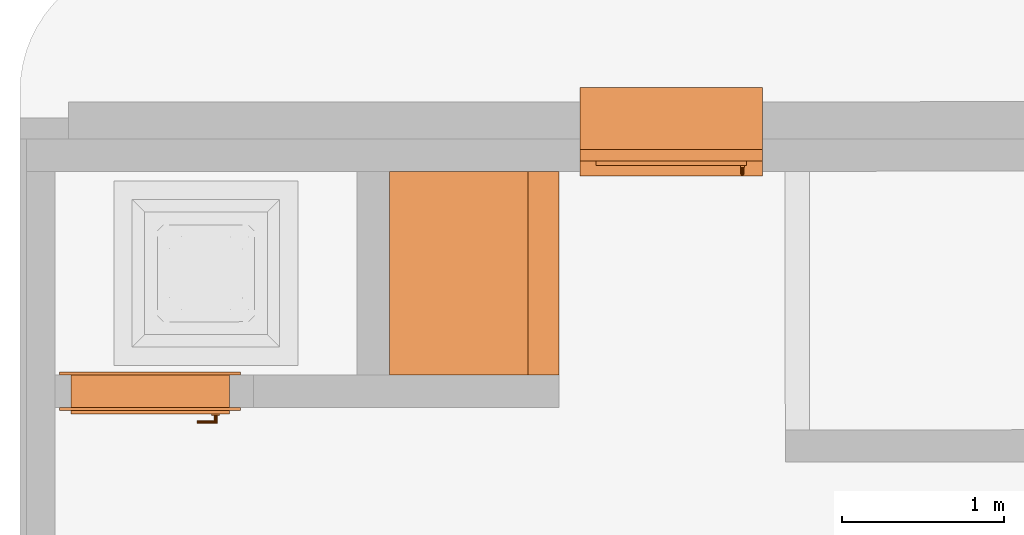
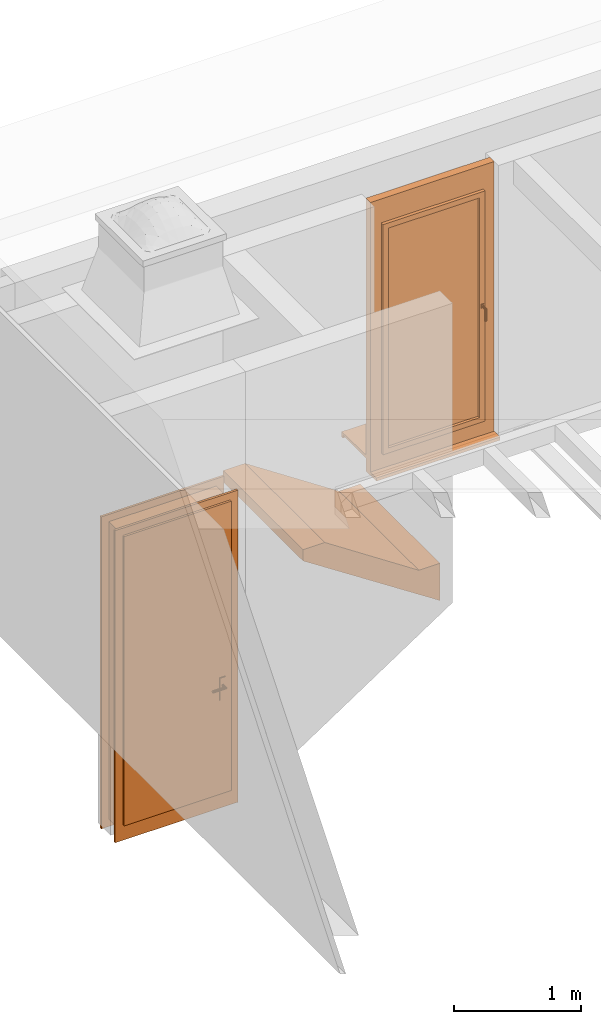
# One storey, part 6 of 7: 3 proxies.
"""IFC2X3 building model written with IfcOpenShell, lengths in metres."""

from ifc_helpers import new_model, entity, si_unit, converted_unit, derived_unit, direction, frame, origin, origin_with_axes, place, context, subcontext, project, spatial, closed_shell, open_shell, faceted_brep, surface_model, source, transform, mapped, element, save


model = new_model("IFC2X3")

# Units and contexts
model_context = context("Model", 3, precision=1e-05, world=origin(), true_north=direction((0.772621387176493, -0.634867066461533)))
body_context = subcontext(model_context, "Body", "Model", "MODEL_VIEW")
ifc_project = project(units=[si_unit("LENGTHUNIT", "METRE"), si_unit("AREAUNIT", "SQUARE_METRE"), si_unit("VOLUMEUNIT", "CUBIC_METRE"), si_unit("MASSUNIT", "GRAM", prefix="KILO"), converted_unit("PLANEANGLEUNIT", "DEGREE", entity("IfcPlaneAngleMeasure", 0.0174532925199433), si_unit("PLANEANGLEUNIT", "RADIAN"), dimensions=[0, 0, 0, 0, 0, 0, 0]), derived_unit("THERMALTRANSMITTANCEUNIT", [(si_unit("POWERUNIT", "WATT"), 1), (si_unit("THERMODYNAMICTEMPERATUREUNIT", "KELVIN"), -1), (si_unit("LENGTHUNIT", "METRE"), -2)]), derived_unit("VOLUMETRICFLOWRATEUNIT", [(si_unit("LENGTHUNIT", "METRE"), 3), (converted_unit("TIMEUNIT", "hour", entity("IfcTimeMeasure", 3600.0), si_unit("TIMEUNIT", "SECOND"), dimensions=[0, 0, 1, 0, 0, 0, 0]), -1), (si_unit("LENGTHUNIT", "METRE"), -1)])], contexts=[model_context])

# Site, building, storey
site_placement = place(None, origin())
site = spatial("IfcSite", under=ifc_project, at=site_placement, Name="Modelle auf dem Nullpunkt", CompositionType="ELEMENT")
building_placement = place(site_placement, origin())
building = spatial("IfcBuilding", under=site, at=building_placement, Name="I", CompositionType="ELEMENT")
storey_placement = place(building_placement, origin())
storey = spatial("IfcBuildingStorey", under=building, at=storey_placement, Name="3.OG", CompositionType="ELEMENT", Elevation=0.0)

# Proxies
shared_shape_1 = source(origin_with_axes(), body_context, "Body", "SurfaceModel", [
    surface_model("IfcShellBasedSurfaceModel", [(0.0, 0.020000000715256, 0.125), (0.0, 0.385000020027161, 0.125), (0.0, 0.385000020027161, 0.155), (0.0, 0.0, 0.145), (0.0, 0.0, 0.095), (0.0, 0.020000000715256, 0.095), (1.13000000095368, 0.385000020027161, 0.125), (1.13000000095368, 0.020000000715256, 0.125), (1.13000000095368, 0.020000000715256, 0.095), (1.13000000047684, 0.0, 0.095), (1.13000000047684, 0.0, 0.145), (1.13000000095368, 0.385000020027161, 0.155)], [closed_shell([[[0, 1, 2, 3, 4, 5]], [[6, 7, 8, 9, 10, 11]], [[1, 0, 7, 6]], [[2, 1, 6, 11]], [[3, 2, 11, 10]], [[4, 3, 10, 9]], [[5, 4, 9, 8]], [[0, 5, 8, 7]]], orient=[[False], [False], [False], [False], [False], [False], [False], [False]])]),
    surface_model("IfcShellBasedSurfaceModel", [(0.0, 0.55000002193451, 0.0), (0.0, 0.55000002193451, 0.03), (0.0, 0.425000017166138, 0.03), (0.0, 0.425000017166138, 0.0), (1.13000000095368, 0.425000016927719, 0.0), (1.13000000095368, 0.425000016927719, 0.03), (1.13000000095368, 0.55000002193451, 0.03), (1.13000000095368, 0.55000002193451, 0.0)], [closed_shell([[[0, 1, 2, 3]], [[4, 5, 6, 7]], [[3, 4, 7, 0]], [[2, 5, 4, 3]], [[1, 6, 5, 2]], [[0, 7, 6, 1]]], orient=[[False], [False], [False], [False], [False], [False]])]),
    surface_model("IfcShellBasedSurfaceModel", [(0.0, 0.455000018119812, 2.63), (0.0, 0.455000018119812, 0.0), (0.12, 0.455000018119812, 0.0), (0.12, 0.455000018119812, 2.63), (0.0, 0.385000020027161, 0.0), (0.0, 0.385000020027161, 2.63), (0.12, 0.385000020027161, 2.63), (0.12, 0.385000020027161, 0.0)], [closed_shell([[[0, 1, 2, 3]], [[4, 5, 6, 7]], [[1, 0, 5, 4]], [[2, 1, 4, 7]], [[3, 2, 7, 6]], [[0, 3, 6, 5]]], orient=[[False], [False], [False], [False], [False], [False]])]),
    surface_model("IfcShellBasedSurfaceModel", [(1.01000000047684, 0.455000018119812, 2.63), (1.01000000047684, 0.455000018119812, 0.0), (1.13000000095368, 0.455000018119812, 0.0), (1.13000000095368, 0.455000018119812, 2.63), (1.01000000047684, 0.385000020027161, 0.0), (1.01000000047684, 0.385000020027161, 2.63), (1.13000000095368, 0.385000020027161, 2.63), (1.13000000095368, 0.385000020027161, 0.0)], [closed_shell([[[0, 1, 2, 3]], [[4, 5, 6, 7]], [[1, 0, 5, 4]], [[2, 1, 4, 7]], [[3, 2, 7, 6]], [[0, 3, 6, 5]]], orient=[[False], [False], [False], [False], [False], [False]])]),
    surface_model("IfcShellBasedSurfaceModel", [(0.12, 0.455000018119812, 0.2), (0.12, 0.455000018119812, 0.0), (1.01000000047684, 0.455000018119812, 0.0), (1.01000000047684, 0.455000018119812, 0.2), (0.12, 0.385000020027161, 0.0), (0.12, 0.385000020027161, 0.2), (1.01000000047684, 0.385000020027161, 0.2), (1.01000000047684, 0.385000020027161, 0.0)], [closed_shell([[[0, 1, 2, 3]], [[4, 5, 6, 7]], [[1, 0, 5, 4]], [[2, 1, 4, 7]], [[3, 2, 7, 6]], [[0, 3, 6, 5]]], orient=[[False], [False], [False], [False], [False], [False]])]),
    surface_model("IfcShellBasedSurfaceModel", [(0.12, 0.455000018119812, 2.63), (0.12, 0.455000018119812, 2.38), (1.01000000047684, 0.455000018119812, 2.38), (1.01000000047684, 0.455000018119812, 2.63), (0.12, 0.385000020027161, 2.38), (0.12, 0.385000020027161, 2.63), (1.01000000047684, 0.385000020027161, 2.63), (1.01000000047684, 0.385000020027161, 2.38)], [closed_shell([[[0, 1, 2, 3]], [[4, 5, 6, 7]], [[1, 0, 5, 4]], [[2, 1, 4, 7]], [[3, 2, 7, 6]], [[0, 3, 6, 5]]], orient=[[False], [False], [False], [False], [False], [False]])]),
    surface_model("IfcShellBasedSurfaceModel", [(0.1, 0.485000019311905, 2.4), (0.1, 0.485000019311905, 0.18), (0.15, 0.485000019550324, 0.18), (0.15, 0.485000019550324, 2.4), (0.1, 0.435000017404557, 0.18), (0.1, 0.435000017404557, 2.4), (0.15, 0.435000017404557, 2.4), (0.15, 0.435000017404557, 0.18)], [closed_shell([[[0, 1, 2, 3]], [[4, 5, 6, 7]], [[1, 0, 5, 4]], [[2, 1, 4, 7]], [[3, 2, 7, 6]], [[0, 3, 6, 5]]], orient=[[False], [False], [False], [False], [False], [False]])]),
    surface_model("IfcShellBasedSurfaceModel", [(0.980000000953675, 0.485000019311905, 2.4), (0.980000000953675, 0.485000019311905, 0.18), (1.03000000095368, 0.485000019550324, 0.18), (1.03000000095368, 0.485000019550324, 2.4), (0.980000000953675, 0.435000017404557, 0.18), (0.980000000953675, 0.435000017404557, 2.4), (1.03000000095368, 0.435000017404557, 2.4), (1.03000000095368, 0.435000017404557, 0.18)], [closed_shell([[[0, 1, 2, 3]], [[4, 5, 6, 7]], [[1, 0, 5, 4]], [[2, 1, 4, 7]], [[3, 2, 7, 6]], [[0, 3, 6, 5]]], orient=[[False], [False], [False], [False], [False], [False]])]),
    surface_model("IfcShellBasedSurfaceModel", [(0.15, 0.485000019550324, 0.23), (0.15, 0.485000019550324, 0.18), (0.980000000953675, 0.485000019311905, 0.18), (0.980000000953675, 0.485000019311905, 0.23), (0.15, 0.435000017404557, 0.18), (0.15, 0.435000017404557, 0.23), (0.980000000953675, 0.435000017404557, 0.23), (0.980000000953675, 0.435000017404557, 0.18)], [closed_shell([[[0, 1, 2, 3]], [[4, 5, 6, 7]], [[1, 0, 5, 4]], [[2, 1, 4, 7]], [[3, 2, 7, 6]], [[0, 3, 6, 5]]], orient=[[False], [False], [False], [False], [False], [False]])]),
    surface_model("IfcShellBasedSurfaceModel", [(0.15, 0.485000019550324, 2.4), (0.15, 0.485000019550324, 2.35), (0.980000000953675, 0.485000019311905, 2.35), (0.980000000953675, 0.485000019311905, 2.4), (0.15, 0.435000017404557, 2.35), (0.15, 0.435000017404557, 2.4), (0.980000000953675, 0.435000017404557, 2.4), (0.980000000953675, 0.435000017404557, 2.35)], [closed_shell([[[0, 1, 2, 3]], [[4, 5, 6, 7]], [[1, 0, 5, 4]], [[2, 1, 4, 7]], [[3, 2, 7, 6]], [[0, 3, 6, 5]]], orient=[[False], [False], [False], [False], [False], [False]])]),
    surface_model("IfcShellBasedSurfaceModel", [(0.1125, 0.485000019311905, 1.32), (0.1375, 0.485000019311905, 1.32), (0.1375, 0.485000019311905, 1.28), (0.1125, 0.485000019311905, 1.28), (0.1125, 0.495000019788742, 1.28), (0.1375, 0.495000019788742, 1.28), (0.1375, 0.495000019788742, 1.32), (0.1125, 0.495000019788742, 1.32)], [closed_shell([[[0, 1, 2, 3]], [[4, 5, 6, 7]], [[3, 4, 7, 0]], [[2, 5, 4, 3]], [[1, 6, 5, 2]], [[0, 7, 6, 1]]], orient=[[False], [False], [False], [False], [False], [False]])]),
    surface_model("IfcShellBasedSurfaceModel", [(0.134999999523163, 0.495000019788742, 1.3), (0.133660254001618, 0.495000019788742, 1.295), (0.13, 0.495000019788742, 1.29133974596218), (0.125, 0.495000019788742, 1.29), (0.12, 0.495000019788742, 1.29133974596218), (0.116339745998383, 0.495000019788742, 1.295), (0.115, 0.495000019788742, 1.3), (0.116339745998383, 0.495000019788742, 1.305), (0.12, 0.495000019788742, 1.30866025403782), (0.125, 0.495000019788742, 1.31), (0.13, 0.495000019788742, 1.30866025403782), (0.133660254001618, 0.495000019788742, 1.305), (0.133660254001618, 0.540000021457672, 1.305), (0.135, 0.535000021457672, 1.3), (0.13, 0.543660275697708, 1.30866025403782), (0.125, 0.545000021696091, 1.31), (0.119999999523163, 0.543660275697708, 1.30866025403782), (0.116339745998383, 0.540000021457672, 1.305), (0.115, 0.535000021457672, 1.3), (0.116339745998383, 0.530000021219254, 1.295), (0.12, 0.526339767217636, 1.29133974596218), (0.125, 0.525000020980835, 1.29), (0.13, 0.526339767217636, 1.29133974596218), (0.133660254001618, 0.530000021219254, 1.295), (0.135, 0.535000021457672, 1.185), (0.133660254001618, 0.540000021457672, 1.185), (0.13, 0.543660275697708, 1.185), (0.125, 0.545000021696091, 1.185), (0.119999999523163, 0.543660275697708, 1.185), (0.116339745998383, 0.540000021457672, 1.185), (0.115, 0.535000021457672, 1.185), (0.116339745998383, 0.530000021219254, 1.185), (0.12, 0.526339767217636, 1.185), (0.125, 0.525000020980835, 1.185), (0.13, 0.526339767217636, 1.185), (0.133660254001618, 0.530000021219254, 1.185)], [closed_shell([[[0, 1, 2, 3, 4, 5, 6, 7, 8, 9, 10, 11]], [[0, 11, 12, 13]], [[11, 10, 14, 12]], [[10, 9, 15, 14]], [[9, 8, 16, 15]], [[8, 7, 17, 16]], [[7, 6, 18, 17]], [[6, 5, 19, 18]], [[5, 4, 20, 19]], [[4, 3, 21, 20]], [[3, 2, 22, 21]], [[2, 1, 23, 22]], [[1, 0, 13, 23]], [[24, 25, 26, 27, 28, 29, 30, 31, 32, 33, 34, 35]], [[13, 12, 25, 24]], [[12, 14, 26, 25]], [[14, 15, 27, 26]], [[15, 16, 28, 27]], [[16, 17, 29, 28]], [[17, 18, 30, 29]], [[18, 19, 31, 30]], [[19, 20, 32, 31]], [[20, 21, 33, 32]], [[21, 22, 34, 33]], [[22, 23, 35, 34]], [[23, 13, 24, 35]]], orient=[[False], [False], [False], [False], [False], [False], [False], [False], [False], [False], [False], [False], [False], [False], [False], [False], [False], [False], [False], [False], [False], [False], [False], [False], [False], [False]])]),
    surface_model("IfcShellBasedSurfaceModel", [(0.15, 0.460000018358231, 0.23), (0.980000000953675, 0.460000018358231, 0.23), (0.980000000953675, 0.460000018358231, 2.35), (0.15, 0.460000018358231, 2.35)], [open_shell([[[0, 1, 2, 3]]], orient=[[False]])]),
])
proxy_1_placement = place(storey_placement, frame((33.9218343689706, 2.45822419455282, 444.6), z_axis=(0.0, 0.0, 1.0), x_axis=(-0.999999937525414, -0.00035348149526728, 0.0)))
element("IfcBuildingElementProxy", 1, at=proxy_1_placement, inside=storey, Name="2flg Weiß Stulp", context=body_context, shape_type="MappedRepresentation", body=[
    mapped(shared_shape_1, transform((0.0, 0.0, 0.0), x_axis=(1.0, 0.0, 0.0), y_axis=(0.0, 1.0, 0.0), z_axis=(0.0, 0.0, 1.0), scale=1.0)),
])
shared_shape_2 = source(origin_with_axes(), body_context, "Body", "Brep", [
    faceted_brep([(0.0700000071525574, 0.240000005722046, 2.94), (0.0700000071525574, 0.240000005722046, 0.07), (0.0900000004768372, 0.240000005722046, 0.07), (0.0900000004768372, 0.240000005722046, 2.94), (0.0700000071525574, 0.0, 0.07), (0.0700000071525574, 0.0, 2.94), (0.0900000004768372, 0.0, 2.94), (0.0900000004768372, 0.0, 0.07)], [[[0, 1, 2, 3]], [[4, 5, 6, 7]], [[1, 0, 5, 4]], [[2, 1, 4, 7]], [[3, 2, 7, 6]], [[0, 3, 6, 5]]], orient=[[False], [False], [False], [False], [False], [False]]),
    faceted_brep([(0.0700000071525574, 0.240000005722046, 3.01), (0.0, 0.240000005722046, 3.01), (0.0, 0.240000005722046, 0.0), (0.0700000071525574, 0.240000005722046, 0.0), (0.0700000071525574, 0.220000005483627, 0.0), (0.0, 0.220000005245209, 0.0), (0.0, 0.220000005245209, 3.01), (0.0700000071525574, 0.220000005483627, 3.01)], [[[0, 1, 2, 3]], [[4, 5, 6, 7]], [[3, 4, 7, 0]], [[2, 5, 4, 3]], [[1, 6, 5, 2]], [[0, 7, 6, 1]]], orient=[[False], [False], [False], [False], [False], [False]]),
    faceted_brep([(0.0700000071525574, 0.0200000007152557, 3.01), (0.0, 0.0200000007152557, 3.01), (0.0, 0.0200000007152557, 0.0), (0.0700000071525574, 0.0200000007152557, 0.0), (0.0700000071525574, 0.0, 0.0), (0.0, 0.0, 0.0), (0.0, 0.0, 3.01), (0.0700000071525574, 0.0, 3.01)], [[[0, 1, 2, 3]], [[4, 5, 6, 7]], [[3, 4, 7, 0]], [[2, 5, 4, 3]], [[1, 6, 5, 2]], [[0, 7, 6, 1]]], orient=[[False], [False], [False], [False], [False], [False]]),
    faceted_brep([(1.03000000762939, 0.240000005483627, 2.94), (1.03000000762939, 0.240000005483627, 0.07), (1.05000000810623, 0.240000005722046, 0.07), (1.05000000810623, 0.240000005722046, 2.94), (1.03000000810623, 0.0, 0.07), (1.03000000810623, 0.0, 2.94), (1.05000000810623, 0.0, 2.94), (1.05000000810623, 0.0, 0.07)], [[[0, 1, 2, 3]], [[4, 5, 6, 7]], [[1, 0, 5, 4]], [[2, 1, 4, 7]], [[3, 2, 7, 6]], [[0, 3, 6, 5]]], orient=[[False], [False], [False], [False], [False], [False]]),
    faceted_brep([(1.05000000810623, 0.240000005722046, 3.01), (1.05000000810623, 0.240000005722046, 0.0), (1.12000000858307, 0.240000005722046, 0.0), (1.12000000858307, 0.240000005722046, 3.01), (1.05000000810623, 0.220000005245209, 0.0), (1.05000000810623, 0.220000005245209, 3.01), (1.12000000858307, 0.220000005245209, 3.01), (1.12000000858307, 0.220000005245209, 0.0)], [[[0, 1, 2, 3]], [[4, 5, 6, 7]], [[1, 0, 5, 4]], [[2, 1, 4, 7]], [[3, 2, 7, 6]], [[0, 3, 6, 5]]], orient=[[False], [False], [False], [False], [False], [False]]),
    faceted_brep([(1.05000000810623, 0.0200000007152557, 3.01), (1.05000000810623, 0.0200000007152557, 0.0), (1.12000000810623, 0.0200000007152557, 0.0), (1.12000000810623, 0.0200000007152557, 3.01), (1.05000000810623, 0.0, 0.0), (1.05000000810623, 0.0, 3.01), (1.12000000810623, 0.0, 3.01), (1.12000000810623, 0.0, 0.0)], [[[0, 1, 2, 3]], [[4, 5, 6, 7]], [[1, 0, 5, 4]], [[2, 1, 4, 7]], [[3, 2, 7, 6]], [[0, 3, 6, 5]]], orient=[[False], [False], [False], [False], [False], [False]]),
    faceted_brep([(0.0900000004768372, 0.240000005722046, 0.15), (0.0900000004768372, 0.240000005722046, 0.07), (1.03000000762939, 0.240000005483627, 0.07), (1.03000000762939, 0.240000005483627, 0.15), (0.0900000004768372, 0.0, 0.07), (0.0900000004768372, 0.0, 0.15), (1.03000000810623, 0.0, 0.15), (1.03000000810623, 0.0, 0.07)], [[[0, 1, 2, 3]], [[4, 5, 6, 7]], [[1, 0, 5, 4]], [[2, 1, 4, 7]], [[3, 2, 7, 6]], [[0, 3, 6, 5]]], orient=[[False], [False], [False], [False], [False], [False]]),
    faceted_brep([(0.0700000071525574, 0.240000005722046, 0.07), (0.0700000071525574, 0.240000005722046, 0.0), (1.05000000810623, 0.240000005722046, 0.0), (1.05000000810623, 0.240000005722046, 0.07), (0.0700000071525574, 0.220000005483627, 0.0), (0.0700000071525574, 0.220000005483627, 0.07), (1.05000000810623, 0.220000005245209, 0.07), (1.05000000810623, 0.220000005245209, 0.0)], [[[0, 1, 2, 3]], [[4, 5, 6, 7]], [[1, 0, 5, 4]], [[2, 1, 4, 7]], [[3, 2, 7, 6]], [[0, 3, 6, 5]]], orient=[[False], [False], [False], [False], [False], [False]]),
    faceted_brep([(0.0700000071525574, 0.0200000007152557, 0.07), (0.0700000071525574, 0.0200000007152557, 0.0), (1.05000000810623, 0.0200000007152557, 0.0), (1.05000000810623, 0.0200000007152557, 0.07), (0.0700000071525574, 0.0, 0.0), (0.0700000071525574, 0.0, 0.07), (1.05000000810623, 0.0, 0.07), (1.05000000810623, 0.0, 0.0)], [[[0, 1, 2, 3]], [[4, 5, 6, 7]], [[1, 0, 5, 4]], [[2, 1, 4, 7]], [[3, 2, 7, 6]], [[0, 3, 6, 5]]], orient=[[False], [False], [False], [False], [False], [False]]),
    faceted_brep([(0.0900000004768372, 0.240000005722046, 2.94), (0.0900000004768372, 0.240000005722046, 2.92), (1.03000000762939, 0.240000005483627, 2.92), (1.03000000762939, 0.240000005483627, 2.94), (0.0900000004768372, 0.0, 2.92), (0.0900000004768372, 0.0, 2.94), (1.03000000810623, 0.0, 2.94), (1.03000000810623, 0.0, 2.92)], [[[0, 1, 2, 3]], [[4, 5, 6, 7]], [[1, 0, 5, 4]], [[2, 1, 4, 7]], [[3, 2, 7, 6]], [[0, 3, 6, 5]]], orient=[[False], [False], [False], [False], [False], [False]]),
    faceted_brep([(0.0700000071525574, 0.240000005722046, 3.01), (0.0700000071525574, 0.240000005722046, 2.94), (1.05000000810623, 0.240000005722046, 2.94), (1.05000000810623, 0.240000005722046, 3.01), (0.0700000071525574, 0.220000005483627, 2.94), (0.0700000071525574, 0.220000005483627, 3.01), (1.05000000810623, 0.220000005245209, 3.01), (1.05000000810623, 0.220000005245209, 2.94)], [[[0, 1, 2, 3]], [[4, 5, 6, 7]], [[1, 0, 5, 4]], [[2, 1, 4, 7]], [[3, 2, 7, 6]], [[0, 3, 6, 5]]], orient=[[False], [False], [False], [False], [False], [False]]),
    faceted_brep([(0.0700000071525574, 0.0200000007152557, 3.01), (0.0700000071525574, 0.0200000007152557, 2.94), (1.05000000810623, 0.0200000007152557, 2.94), (1.05000000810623, 0.0200000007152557, 3.01), (0.0700000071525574, 0.0, 2.94), (0.0700000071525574, 0.0, 3.01), (1.05000000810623, 0.0, 3.01), (1.05000000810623, 0.0, 2.94)], [[[0, 1, 2, 3]], [[4, 5, 6, 7]], [[1, 0, 5, 4]], [[2, 1, 4, 7]], [[3, 2, 7, 6]], [[0, 3, 6, 5]]], orient=[[False], [False], [False], [False], [False], [False]]),
    faceted_brep([(0.0700000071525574, 0.260000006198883, 2.94), (0.0700000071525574, 0.260000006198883, 0.15), (1.05000000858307, 0.260000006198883, 0.15), (1.05000000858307, 0.260000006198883, 2.94), (0.0700000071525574, 0.220000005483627, 0.15), (0.0700000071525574, 0.220000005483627, 2.94), (1.05000000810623, 0.220000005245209, 2.94), (1.05000000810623, 0.220000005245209, 0.15)], [[[0, 1, 2, 3]], [[4, 5, 6, 7]], [[1, 0, 5, 4]], [[2, 1, 4, 7]], [[3, 2, 7, 6]], [[0, 3, 6, 5]]], orient=[[False], [False], [False], [False], [False], [False]]),
    faceted_brep([(0.130000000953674, 0.220000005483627, 1.275), (0.130000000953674, 0.220000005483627, 1.06), (0.180000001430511, 0.220000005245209, 1.06), (0.180000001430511, 0.220000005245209, 1.275), (0.130000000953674, 0.21000000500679, 1.06), (0.130000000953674, 0.21000000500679, 1.275), (0.180000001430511, 0.21000000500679, 1.275), (0.180000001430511, 0.21000000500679, 1.06)], [[[0, 1, 2, 3]], [[4, 5, 6, 7]], [[1, 0, 5, 4]], [[2, 1, 4, 7]], [[3, 2, 7, 6]], [[0, 3, 6, 5]]], orient=[[False], [False], [False], [False], [False], [False]]),
    faceted_brep([(0.155000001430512, 0.21000000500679, 1.21), (0.150000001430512, 0.21000000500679, 1.20866025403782), (0.146339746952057, 0.21000000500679, 1.205), (0.145000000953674, 0.21000000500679, 1.2), (0.146339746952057, 0.21000000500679, 1.195), (0.150000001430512, 0.21000000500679, 1.19133974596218), (0.155000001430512, 0.21000000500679, 1.19), (0.160000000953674, 0.21000000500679, 1.19133974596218), (0.163660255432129, 0.21000000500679, 1.195), (0.165000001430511, 0.21000000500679, 1.2), (0.163660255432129, 0.21000000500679, 1.205), (0.160000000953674, 0.21000000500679, 1.20866025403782), (0.155000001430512, 0.170000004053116, 1.21), (0.150000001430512, 0.165000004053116, 1.20866025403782), (0.146339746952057, 0.161339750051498, 1.205), (0.145000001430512, 0.160000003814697, 1.2), (0.146339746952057, 0.161339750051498, 1.195), (0.150000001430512, 0.165000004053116, 1.19133974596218), (0.155000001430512, 0.170000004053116, 1.19), (0.160000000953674, 0.175000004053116, 1.19133974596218), (0.163660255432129, 0.178660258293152, 1.195), (0.165000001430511, 0.180000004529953, 1.2), (0.163660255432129, 0.178660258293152, 1.205), (0.160000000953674, 0.175000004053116, 1.20866025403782), (0.270000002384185, 0.170000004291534, 1.21), (0.270000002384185, 0.175000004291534, 1.20866025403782), (0.270000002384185, 0.178660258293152, 1.205), (0.270000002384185, 0.180000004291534, 1.2), (0.270000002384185, 0.178660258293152, 1.195), (0.270000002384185, 0.175000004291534, 1.19133974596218), (0.270000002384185, 0.170000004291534, 1.19), (0.270000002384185, 0.165000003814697, 1.19133974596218), (0.270000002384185, 0.16133974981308, 1.195), (0.270000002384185, 0.160000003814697, 1.2), (0.270000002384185, 0.16133974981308, 1.205), (0.270000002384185, 0.165000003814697, 1.20866025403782)], [[[0, 1, 2, 3, 4, 5, 6, 7, 8, 9, 10, 11]], [[0, 12, 13, 1]], [[1, 13, 14, 2]], [[2, 14, 15, 3]], [[3, 15, 16, 4]], [[4, 16, 17, 5]], [[5, 17, 18, 6]], [[6, 18, 19, 7]], [[7, 19, 20, 8]], [[8, 20, 21, 9]], [[9, 21, 22, 10]], [[10, 22, 23, 11]], [[11, 23, 12, 0]], [[24, 25, 26, 27, 28, 29, 30, 31, 32, 33, 34, 35]], [[12, 24, 35, 13]], [[13, 35, 34, 14]], [[14, 34, 33, 15]], [[15, 33, 32, 16]], [[16, 32, 31, 17]], [[17, 31, 30, 18]], [[18, 30, 29, 19]], [[19, 29, 28, 20]], [[20, 28, 27, 21]], [[21, 27, 26, 22]], [[22, 26, 25, 23]], [[23, 25, 24, 12]]], orient=[[False], [False], [False], [False], [False], [False], [False], [False], [False], [False], [False], [False], [False], [False], [False], [False], [False], [False], [False], [False], [False], [False], [False], [False], [False], [False]]),
    faceted_brep([(0.130000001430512, 0.260000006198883, 1.275), (0.180000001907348, 0.260000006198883, 1.275), (0.180000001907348, 0.260000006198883, 1.06), (0.130000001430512, 0.260000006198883, 1.06), (0.130000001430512, 0.270000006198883, 1.06), (0.180000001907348, 0.270000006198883, 1.06), (0.180000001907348, 0.270000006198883, 1.275), (0.130000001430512, 0.270000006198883, 1.275)], [[[0, 1, 2, 3]], [[4, 5, 6, 7]], [[3, 4, 7, 0]], [[2, 5, 4, 3]], [[1, 6, 5, 2]], [[0, 7, 6, 1]]], orient=[[False], [False], [False], [False], [False], [False]]),
    faceted_brep([(0.155000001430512, 0.270000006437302, 1.21), (0.160000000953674, 0.270000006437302, 1.20866025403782), (0.163660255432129, 0.270000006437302, 1.205), (0.165000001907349, 0.270000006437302, 1.2), (0.163660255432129, 0.270000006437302, 1.195), (0.160000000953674, 0.270000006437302, 1.19133974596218), (0.155000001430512, 0.270000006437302, 1.19), (0.150000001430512, 0.270000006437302, 1.19133974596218), (0.146339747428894, 0.270000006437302, 1.195), (0.145000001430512, 0.270000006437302, 1.2), (0.146339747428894, 0.270000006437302, 1.205), (0.150000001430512, 0.270000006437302, 1.20866025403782), (0.150000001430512, 0.315000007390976, 1.20866025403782), (0.155000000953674, 0.310000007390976, 1.21), (0.146339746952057, 0.318660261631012, 1.205), (0.145000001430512, 0.320000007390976, 1.2), (0.146339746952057, 0.318660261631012, 1.195), (0.150000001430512, 0.315000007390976, 1.19133974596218), (0.155000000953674, 0.310000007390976, 1.19), (0.160000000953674, 0.305000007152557, 1.19133974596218), (0.163660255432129, 0.301339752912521, 1.195), (0.165000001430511, 0.300000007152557, 1.2), (0.163660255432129, 0.301339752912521, 1.205), (0.160000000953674, 0.305000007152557, 1.20866025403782), (0.270000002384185, 0.310000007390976, 1.21), (0.270000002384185, 0.315000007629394, 1.20866025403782), (0.270000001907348, 0.318660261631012, 1.205), (0.270000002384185, 0.320000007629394, 1.2), (0.270000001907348, 0.318660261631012, 1.195), (0.270000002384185, 0.315000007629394, 1.19133974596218), (0.270000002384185, 0.310000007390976, 1.19), (0.270000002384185, 0.305000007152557, 1.19133974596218), (0.270000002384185, 0.30133975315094, 1.195), (0.270000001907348, 0.300000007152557, 1.2), (0.270000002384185, 0.30133975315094, 1.205), (0.270000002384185, 0.305000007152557, 1.20866025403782)], [[[0, 1, 2, 3, 4, 5, 6, 7, 8, 9, 10, 11]], [[0, 11, 12, 13]], [[11, 10, 14, 12]], [[10, 9, 15, 14]], [[9, 8, 16, 15]], [[8, 7, 17, 16]], [[7, 6, 18, 17]], [[6, 5, 19, 18]], [[5, 4, 20, 19]], [[4, 3, 21, 20]], [[3, 2, 22, 21]], [[2, 1, 23, 22]], [[1, 0, 13, 23]], [[24, 25, 26, 27, 28, 29, 30, 31, 32, 33, 34, 35]], [[13, 12, 25, 24]], [[12, 14, 26, 25]], [[14, 15, 27, 26]], [[15, 16, 28, 27]], [[16, 17, 29, 28]], [[17, 18, 30, 29]], [[18, 19, 31, 30]], [[19, 20, 32, 31]], [[20, 21, 33, 32]], [[21, 22, 34, 33]], [[22, 23, 35, 34]], [[23, 13, 24, 35]]], orient=[[False], [False], [False], [False], [False], [False], [False], [False], [False], [False], [False], [False], [False], [False], [False], [False], [False], [False], [False], [False], [False], [False], [False], [False], [False], [False]]),
])
proxy_2_placement = place(storey_placement, frame((30.69245666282, 0.697082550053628, 443.12), z_axis=(0.0, 0.0, 1.0), x_axis=(-0.999999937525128, -0.000353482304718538, 0.0)))
element("IfcBuildingElementProxy", 2, at=proxy_2_placement, inside=storey, Name="1flg Weiß UZ außen", context=body_context, shape_type="MappedRepresentation", body=[
    mapped(shared_shape_2, transform((0.0, 0.0, 0.0), x_axis=(1.0, 0.0, 0.0), y_axis=(0.0, 1.0, 0.0), z_axis=(0.0, 0.0, 1.0), scale=1.0)),
])
proxy_3_placement = place(storey_placement, frame((31.4120182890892, 0.677337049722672, 444.24)))
element("IfcBuildingElementProxy", 3, at=proxy_3_placement, inside=storey, context=body_context, shape_type="Brep", body=[
    faceted_brep([(0.200445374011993, 7.06963539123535e-05, 0.92842644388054), (1.05794848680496, 0.000373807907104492, 0.359999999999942), (1.25084247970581, 0.000441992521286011, 0.359999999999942), (1.25084247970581, 0.000441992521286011, 0.0), (0.000445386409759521, 0.0, 0.820768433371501), (0.000445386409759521, 0.0, 0.92842644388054), (0.19999998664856, 1.26007061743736, 0.92842644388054), (0.0, 1.25999992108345, 0.92842644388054), (0.0, 1.25999992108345, 0.820768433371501), (1.25039709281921, 1.26044191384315, 0.0), (1.25039709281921, 1.26044191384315, 0.359999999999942), (1.05750309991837, 1.26037372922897, 0.359999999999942)], [[[0, 1, 2, 3, 4, 5]], [[6, 7, 8, 9, 10, 11]], [[7, 6, 0, 5]], [[8, 7, 5, 4]], [[9, 8, 4, 3]], [[10, 9, 3, 2]], [[11, 10, 2, 1]], [[6, 11, 1, 0]]], orient=[[False], [False], [False], [False], [False], [False], [False], [False]]),
])

save(model, "model.ifc")
